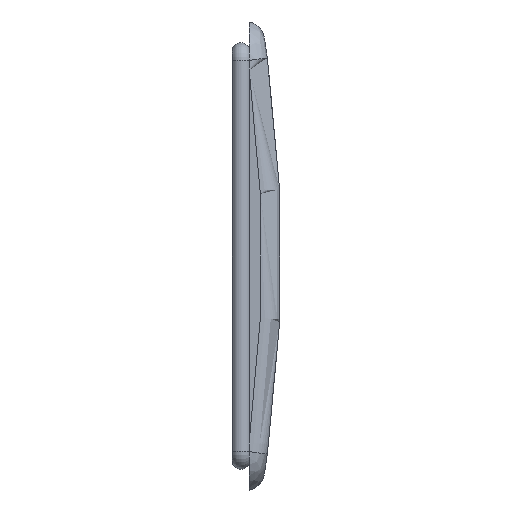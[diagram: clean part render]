
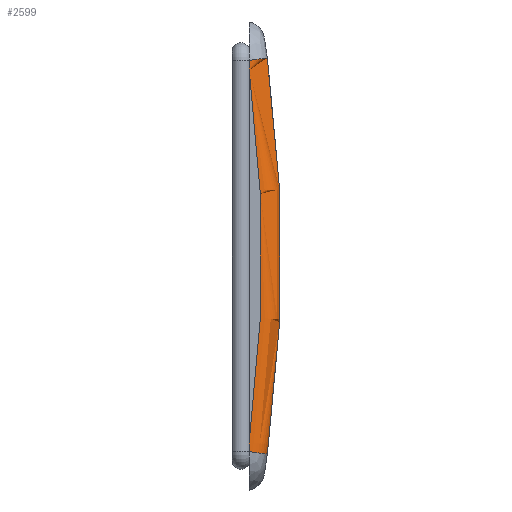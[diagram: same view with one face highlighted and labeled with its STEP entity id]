
A CAD part, left-side view. The second image highlights one B-rep face of the part: STEP entity #2599.
In plain terms, the highlighted toroidal (fillet/blend) face has major radius 227.012 mm and minor radius 3.175 mm.
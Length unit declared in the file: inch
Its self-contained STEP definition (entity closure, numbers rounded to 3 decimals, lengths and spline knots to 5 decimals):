
#4 = AXIS2_PLACEMENT_3D ( 'NONE', #3612, #2917, #4392 ) ;
#17 = EDGE_CURVE ( 'NONE', #73, #1980, #522, .T. ) ;
#73 = VERTEX_POINT ( 'NONE', #2711 ) ;
#98 = CARTESIAN_POINT ( 'NONE',  ( -3.24973, 0.0795, 1.25 ) ) ;
#127 = VERTEX_POINT ( 'NONE', #3388 ) ;
#244 = CARTESIAN_POINT ( 'NONE',  ( -3.24973, 0.0795, 1.25 ) ) ;
#246 = DIRECTION ( 'NONE',  ( 0., 0., -1. ) ) ;
#262 = CIRCLE ( 'NONE', #703, 9.0625 ) ;
#311 = CARTESIAN_POINT ( 'NONE',  ( -3.24973, 0.0795, -1.25 ) ) ;
#329 = EDGE_CURVE ( 'NONE', #3210, #2727, #3797, .T. ) ;
#395 = CARTESIAN_POINT ( 'NONE',  ( -3.25, 0.0795, 1.18943 ) ) ;
#522 = CIRCLE ( 'NONE', #742, 8.9375 ) ;
#635 = DIRECTION ( 'NONE',  ( 0., 0., -1. ) ) ;
#703 = AXIS2_PLACEMENT_3D ( 'NONE', #2721, #3760, #4575 ) ;
#742 = AXIS2_PLACEMENT_3D ( 'NONE', #3777, #3070, #246 ) ;
#770 = B_SPLINE_CURVE_WITH_KNOTS ( 'NONE', 3,
 ( #2969, #1210, #4374, #2613, #4021, #842 ),
 .UNSPECIFIED., .F., .F.,
 ( 4, 2, 4 ),
 ( 0.03022, 0.03099, 0.03176 ),
 .UNSPECIFIED. ) ;
#830 = CARTESIAN_POINT ( 'NONE',  ( -3.24972, 0.0795, 1.25118 ) ) ;
#842 = CARTESIAN_POINT ( 'NONE',  ( -3.24973, 0.0795, -1.25 ) ) ;
#1007 = DIRECTION ( 'NONE',  ( 1., 0., 0. ) ) ;
#1040 = DIRECTION ( 'NONE',  ( 0., -0.99, -0.14 ) ) ;
#1102 = DIRECTION ( 'NONE',  ( 0., -0.14, 0.99 ) ) ;
#1176 = AXIS2_PLACEMENT_3D ( 'NONE', #3221, #1102, #1040 ) ;
#1201 = ORIENTED_EDGE ( 'NONE', *, *, #17, .F. ) ;
#1210 = CARTESIAN_POINT ( 'NONE',  ( -3.25, 0.0795, -1.19952 ) ) ;
#1320 = ORIENTED_EDGE ( 'NONE', *, *, #1542, .T. ) ;
#1406 = CARTESIAN_POINT ( 'NONE',  ( -3.24972, 0.0795, -1.25118 ) ) ;
#1424 = ORIENTED_EDGE ( 'NONE', *, *, #2350, .T. ) ;
#1513 = CARTESIAN_POINT ( 'NONE',  ( -3.125, -0.03593, 1.26748 ) ) ;
#1542 = EDGE_CURVE ( 'NONE', #127, #3993, #2783, .T. ) ;
#1608 = EDGE_CURVE ( 'NONE', #3163, #1980, #3400, .T. ) ;
#1731 = CARTESIAN_POINT ( 'NONE',  ( -3.24972, 0.0795, -1.25039 ) ) ;
#1784 = EDGE_CURVE ( 'NONE', #3210, #3163, #2334, .T. ) ;
#1864 = ORIENTED_EDGE ( 'NONE', *, *, #1784, .T. ) ;
#1898 = EDGE_LOOP ( 'NONE', ( #1424, #1320, #2153, #3695, #2791, #1864, #3404, #1201 ) ) ;
#1980 = VERTEX_POINT ( 'NONE', #395 ) ;
#2153 = ORIENTED_EDGE ( 'NONE', *, *, #3489, .T. ) ;
#2334 = B_SPLINE_CURVE_WITH_KNOTS ( 'NONE', 3,
 ( #2637, #3776, #3387, #244 ),
 .UNSPECIFIED., .F., .F.,
 ( 4, 4 ),
 ( 0.00362, 0.00365 ),
 .UNSPECIFIED. ) ;
#2350 = EDGE_CURVE ( 'NONE', #73, #127, #770, .T. ) ;
#2599 = ADVANCED_FACE ( 'NONE', ( #2823 ), #4127, .T. ) ;
#2613 = CARTESIAN_POINT ( 'NONE',  ( -3.24989, 0.0795, -1.22981 ) ) ;
#2637 = CARTESIAN_POINT ( 'NONE',  ( -3.24972, 0.0795, 1.25118 ) ) ;
#2711 = CARTESIAN_POINT ( 'NONE',  ( -3.25, 0.0795, -1.18943 ) ) ;
#2721 = CARTESIAN_POINT ( 'NONE',  ( -3.125, 8.9375, 0. ) ) ;
#2727 = VERTEX_POINT ( 'NONE', #1513 ) ;
#2783 = B_SPLINE_CURVE_WITH_KNOTS ( 'NONE', 3,
 ( #311, #1731, #3156, #1406 ),
 .UNSPECIFIED., .F., .F.,
 ( 4, 4 ),
 ( 0.00321, 0.00324 ),
 .UNSPECIFIED. ) ;
#2791 = ORIENTED_EDGE ( 'NONE', *, *, #329, .F. ) ;
#2823 = FACE_OUTER_BOUND ( 'NONE', #1898, .T. ) ;
#2917 = DIRECTION ( 'NONE',  ( 0., 0.14, 0.99 ) ) ;
#2969 = CARTESIAN_POINT ( 'NONE',  ( -3.25, 0.0795, -1.18943 ) ) ;
#3048 = CIRCLE ( 'NONE', #1176, 0.125 ) ;
#3070 = DIRECTION ( 'NONE',  ( -1., 0., 0. ) ) ;
#3156 = CARTESIAN_POINT ( 'NONE',  ( -3.24972, 0.0795, -1.25079 ) ) ;
#3163 = VERTEX_POINT ( 'NONE', #4384 ) ;
#3210 = VERTEX_POINT ( 'NONE', #830 ) ;
#3221 = CARTESIAN_POINT ( 'NONE',  ( -3.125, 0.08784, -1.25 ) ) ;
#3299 = CARTESIAN_POINT ( 'NONE',  ( -3.125, -0.03593, -1.26748 ) ) ;
#3317 = CARTESIAN_POINT ( 'NONE',  ( -3.25, 0.0795, 1.18943 ) ) ;
#3387 = CARTESIAN_POINT ( 'NONE',  ( -3.24972, 0.0795, 1.25039 ) ) ;
#3388 = CARTESIAN_POINT ( 'NONE',  ( -3.24973, 0.0795, -1.25 ) ) ;
#3400 = B_SPLINE_CURVE_WITH_KNOTS ( 'NONE', 3,
 ( #98, #3957, #4349, #4285, #3317 ),
 .UNSPECIFIED., .F., .F.,
 ( 4, 1, 4 ),
 ( 0.16654, 0.16731, 0.16808 ),
 .UNSPECIFIED. ) ;
#3404 = ORIENTED_EDGE ( 'NONE', *, *, #1608, .T. ) ;
#3489 = EDGE_CURVE ( 'NONE', #3993, #3666, #3048, .T. ) ;
#3612 = CARTESIAN_POINT ( 'NONE',  ( -3.125, 0.08784, 1.25 ) ) ;
#3666 = VERTEX_POINT ( 'NONE', #3299 ) ;
#3695 = ORIENTED_EDGE ( 'NONE', *, *, #3778, .F. ) ;
#3760 = DIRECTION ( 'NONE',  ( 1., 0., 0. ) ) ;
#3776 = CARTESIAN_POINT ( 'NONE',  ( -3.24972, 0.0795, 1.25079 ) ) ;
#3777 = CARTESIAN_POINT ( 'NONE',  ( -3.25, 8.9375, 0. ) ) ;
#3778 = EDGE_CURVE ( 'NONE', #2727, #3666, #262, .T. ) ;
#3797 = CIRCLE ( 'NONE', #4, 0.125 ) ;
#3862 = CARTESIAN_POINT ( 'NONE',  ( -3.125, 8.9375, 0. ) ) ;
#3957 = CARTESIAN_POINT ( 'NONE',  ( -3.24982, 0.0795, 1.2399 ) ) ;
#3993 = VERTEX_POINT ( 'NONE', #4243 ) ;
#4021 = CARTESIAN_POINT ( 'NONE',  ( -3.24982, 0.0795, -1.2399 ) ) ;
#4127 = TOROIDAL_SURFACE ( 'NONE', #4577, 8.9375, 0.125 ) ;
#4243 = CARTESIAN_POINT ( 'NONE',  ( -3.24972, 0.0795, -1.25118 ) ) ;
#4285 = CARTESIAN_POINT ( 'NONE',  ( -3.25, 0.0795, 1.19952 ) ) ;
#4349 = CARTESIAN_POINT ( 'NONE',  ( -3.24996, 0.0795, 1.21971 ) ) ;
#4374 = CARTESIAN_POINT ( 'NONE',  ( -3.24998, 0.0795, -1.20962 ) ) ;
#4384 = CARTESIAN_POINT ( 'NONE',  ( -3.24973, 0.0795, 1.25 ) ) ;
#4392 = DIRECTION ( 'NONE',  ( 0., -0.99, 0.14 ) ) ;
#4575 = DIRECTION ( 'NONE',  ( 0., 0., -1. ) ) ;
#4577 = AXIS2_PLACEMENT_3D ( 'NONE', #3862, #1007, #635 ) ;
